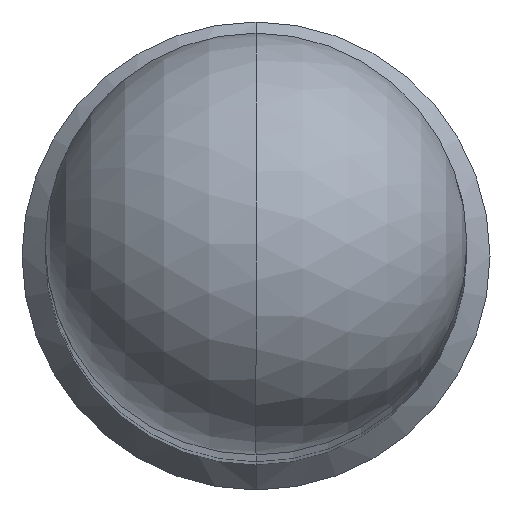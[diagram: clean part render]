
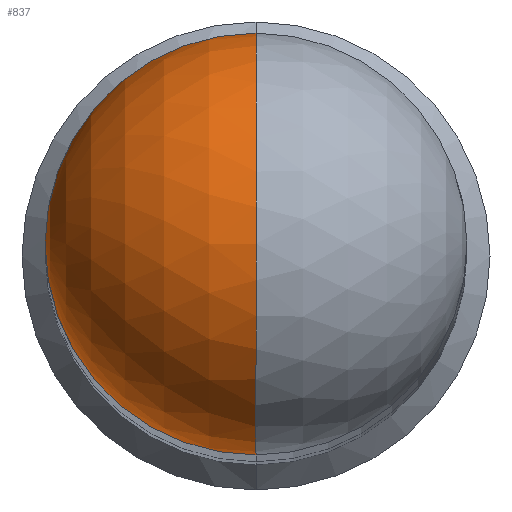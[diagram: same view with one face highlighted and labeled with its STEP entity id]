
A CAD part, top view. The second image highlights one B-rep face of the part: STEP entity #837.
In plain terms, the highlighted spherical face has radius 0.685 mm.
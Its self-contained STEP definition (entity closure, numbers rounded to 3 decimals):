
#50 = DIRECTION ( 'NONE',  ( 0., -1., 0. ) ) ;
#119 = CARTESIAN_POINT ( 'NONE',  ( 0., 0.685, 11.635 ) ) ;
#120 = VERTEX_POINT ( 'NONE', #370 ) ;
#126 = CARTESIAN_POINT ( 'NONE',  ( 0., 0., 11.635 ) ) ;
#165 = DIRECTION ( 'NONE',  ( 0., 0., -1. ) ) ;
#252 = SPHERICAL_SURFACE ( 'NONE', #331, 0.685 ) ;
#257 = FACE_OUTER_BOUND ( 'NONE', #270, .T. ) ;
#270 = EDGE_LOOP ( 'NONE', ( #918, #369, #670 ) ) ;
#300 = DIRECTION ( 'NONE',  ( 0., -1., 0. ) ) ;
#331 = AXIS2_PLACEMENT_3D ( 'NONE', #579, #889, #500 ) ;
#369 = ORIENTED_EDGE ( 'NONE', *, *, #718, .T. ) ;
#370 = CARTESIAN_POINT ( 'NONE',  ( 0., 0., 12.32 ) ) ;
#407 = AXIS2_PLACEMENT_3D ( 'NONE', #595, #851, #50 ) ;
#422 = CARTESIAN_POINT ( 'NONE',  ( 0., 0., 11.635 ) ) ;
#480 = CARTESIAN_POINT ( 'NONE',  ( 0., -0.685, 11.635 ) ) ;
#500 = DIRECTION ( 'NONE',  ( 0., 1., 0. ) ) ;
#575 = EDGE_CURVE ( 'NONE', #739, #1036, #1025, .T. ) ;
#579 = CARTESIAN_POINT ( 'NONE',  ( 0., 0., 11.635 ) ) ;
#595 = CARTESIAN_POINT ( 'NONE',  ( 0., 0., 11.635 ) ) ;
#627 = CIRCLE ( 'NONE', #778, 0.685 ) ;
#647 = EDGE_CURVE ( 'NONE', #739, #120, #627, .T. ) ;
#655 = CIRCLE ( 'NONE', #407, 0.685 ) ;
#670 = ORIENTED_EDGE ( 'NONE', *, *, #647, .F. ) ;
#718 = EDGE_CURVE ( 'NONE', #1036, #120, #655, .T. ) ;
#738 = DIRECTION ( 'NONE',  ( 1., 0., 0. ) ) ;
#739 = VERTEX_POINT ( 'NONE', #119 ) ;
#771 = DIRECTION ( 'NONE',  ( 0., 0., 1. ) ) ;
#778 = AXIS2_PLACEMENT_3D ( 'NONE', #422, #738, #165 ) ;
#837 = ADVANCED_FACE ( 'NONE', ( #257 ), #252, .T. ) ;
#838 = AXIS2_PLACEMENT_3D ( 'NONE', #126, #771, #300 ) ;
#851 = DIRECTION ( 'NONE',  ( -1., 0., 0. ) ) ;
#889 = DIRECTION ( 'NONE',  ( -1., 0., 0. ) ) ;
#918 = ORIENTED_EDGE ( 'NONE', *, *, #575, .T. ) ;
#1025 = CIRCLE ( 'NONE', #838, 0.685 ) ;
#1036 = VERTEX_POINT ( 'NONE', #480 ) ;
